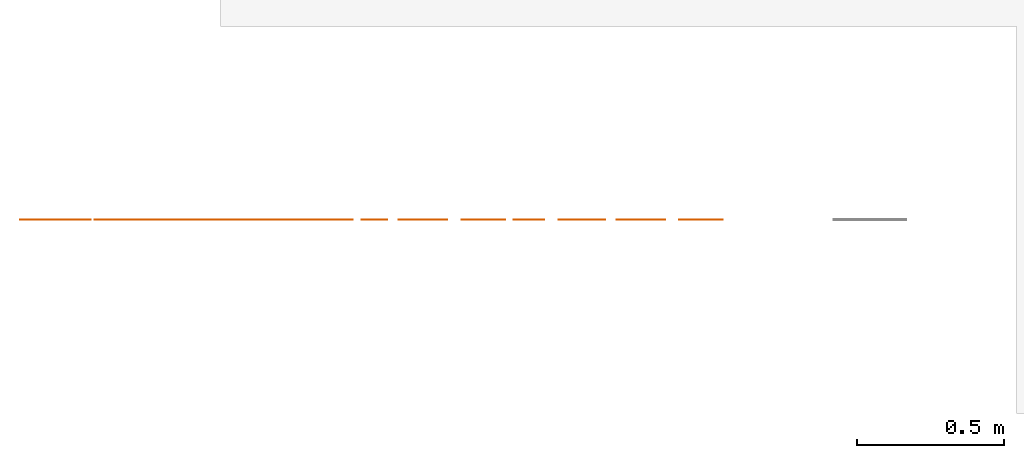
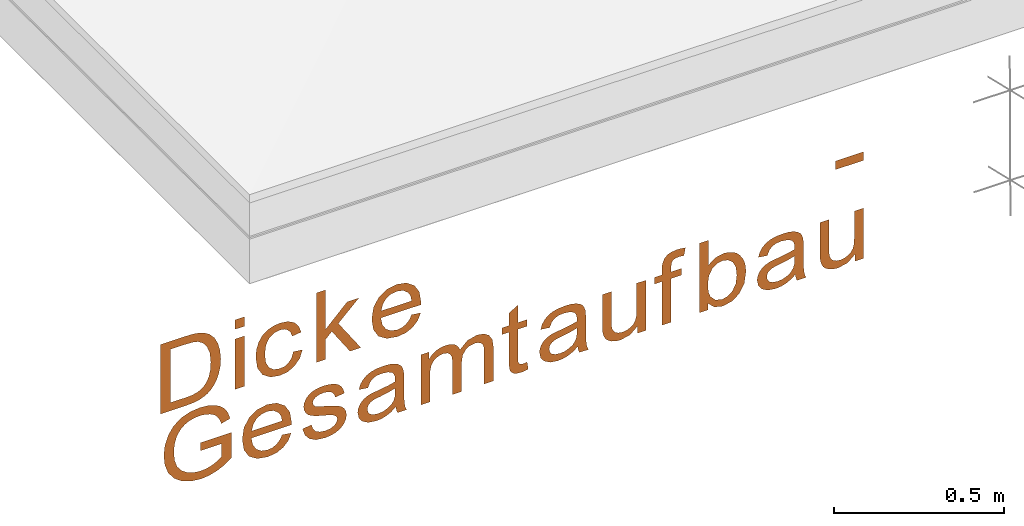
# One storey, part 3 of 3: 1 proxy, 1 element without a shape of its own.
"""IFC4 building model written with IfcOpenShell, lengths in metres."""

from ifc_helpers import new_model, entity, si_unit, converted_unit, derived_unit, frame, origin, origin_with_axes, place, context, subcontext, project, spatial, open_shell, surface_model, source, transform, mapped, element, aggregate, save


model = new_model("IFC4")

# Units and contexts
model_context = context("Model", 3, precision=1e-05, world=origin())
body_context = subcontext(model_context, "Body", "Model", "MODEL_VIEW")
ifc_project = project(units=[si_unit("LENGTHUNIT", "METRE"), si_unit("AREAUNIT", "SQUARE_METRE"), si_unit("VOLUMEUNIT", "CUBIC_METRE"), si_unit("MASSUNIT", "GRAM", prefix="KILO"), converted_unit("PLANEANGLEUNIT", "DEGREE", entity("IfcPlaneAngleMeasure", 0.0174532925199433), si_unit("PLANEANGLEUNIT", "RADIAN"), dimensions=[0, 0, 0, 0, 0, 0, 0]), derived_unit("THERMALTRANSMITTANCEUNIT", [(si_unit("POWERUNIT", "WATT"), 1), (si_unit("THERMODYNAMICTEMPERATUREUNIT", "KELVIN"), -1), (si_unit("LENGTHUNIT", "METRE"), -2)]), derived_unit("VOLUMETRICFLOWRATEUNIT", [(si_unit("LENGTHUNIT", "METRE"), 3), (converted_unit("TIMEUNIT", "hour", entity("IfcTimeMeasure", 3600.0), si_unit("TIMEUNIT", "SECOND"), dimensions=[0, 0, 1, 0, 0, 0, 0]), -1), (si_unit("LENGTHUNIT", "METRE"), -1)])], contexts=[model_context])

# Site, building, storey
site_placement = place(None, origin())
site = spatial("IfcSite", under=ifc_project, at=site_placement, Name="Liegenschaft", CompositionType="ELEMENT")
building_placement = place(site_placement, origin())
building = spatial("IfcBuilding", under=site, at=building_placement, Name="Gebäude", CompositionType="ELEMENT")
storey_placement = place(building_placement, origin())
storey = spatial("IfcBuildingStorey", under=building, at=storey_placement, Name="Geschoss 02", CompositionType="ELEMENT", Elevation=0.0)

# Assembly, proxy
assembly_placement = place(storey_placement, origin())
assembly = element("IfcElementAssembly", 1, at=assembly_placement, inside=storey, Name="SpatialDim_Group", PredefinedType="NOTDEFINED")
shared_shape = source(origin_with_axes(), body_context, "Body", "SurfaceModel", [
    surface_model("IfcShellBasedSurfaceModel", [(0.282, 2.893, 0.0), (0.282, 2.804, 0.0), (0.28325, 2.782125, 0.0), (0.286, 2.764, 0.0), (0.292125, 2.7475, 0.0), (0.299, 2.734, 0.0), (0.308875, 2.72225, 0.0), (0.321, 2.712, 0.0), (0.338, 2.702, 0.0), (0.358, 2.695, 0.0), (0.381875, 2.689625, 0.0), (0.408, 2.688, 0.0), (0.44025, 2.69075, 0.0), (0.468, 2.698, 0.0), (0.492125, 2.709875, 0.0), (0.511, 2.727, 0.0), (0.521375, 2.7435, 0.0), (0.528, 2.763, 0.0), (0.531125, 2.7825, 0.0), (0.532, 2.808, 0.0), (0.532, 2.893, 0.0), (0.312, 2.78575, 0.0), (0.311, 2.807, 0.0), (0.311, 2.86, 0.0), (0.503, 2.86, 0.0), (0.503, 2.808, 0.0), (0.501625, 2.7825, 0.0), (0.498, 2.766, 0.0), (0.486875, 2.748625, 0.0), (0.469, 2.735, 0.0), (0.4435, 2.725125, 0.0), (0.409, 2.722, 0.0), (0.381875, 2.7235, 0.0), (0.36, 2.728, 0.0), (0.341875, 2.736375, 0.0), (0.329, 2.747, 0.0), (0.321, 2.756875, 0.0), (0.316, 2.769, 0.0)], [open_shell([[[0, 1, 2, 3, 4, 5, 6, 7, 8, 9, 10, 11, 12, 13, 14, 15, 16, 17, 18, 19, 20], [21, 22, 23, 24, 25, 26, 27, 28, 29, 30, 31, 32, 33, 34, 35, 36, 37]]], orient=[[False, False]])]),
    surface_model("IfcShellBasedSurfaceModel", [(0.282, 2.639, 0.0), (0.282, 2.608, 0.0), (0.463, 2.608, 0.0), (0.463, 2.639, 0.0), (0.498, 2.639, 0.0), (0.498, 2.608, 0.0), (0.532, 2.608, 0.0), (0.532, 2.639, 0.0)], [open_shell([[[0, 1, 2, 3]], [[4, 5, 6, 7]]], orient=[[False], [False]])]),
    surface_model("IfcShellBasedSurfaceModel", [(0.348, 2.441, 0.0), (0.327625, 2.44675, 0.0), (0.314, 2.457, 0.0), (0.3055, 2.4705, 0.0), (0.303, 2.487, 0.0), (0.307375, 2.508125, 0.0), (0.32, 2.524, 0.0), (0.341625, 2.53475, 0.0), (0.373, 2.538, 0.0), (0.40425, 2.534375, 0.0), (0.425, 2.524, 0.0), (0.438, 2.506875, 0.0), (0.442, 2.486, 0.0), (0.43975, 2.471875, 0.0), (0.433, 2.46, 0.0), (0.420875, 2.45025, 0.0), (0.405, 2.445, 0.0), (0.409, 2.414, 0.0), (0.433875, 2.423, 0.0), (0.452, 2.438, 0.0), (0.46325, 2.45975, 0.0), (0.467, 2.486, 0.0), (0.464125, 2.509125, 0.0), (0.456, 2.53, 0.0), (0.44175, 2.5475, 0.0), (0.423, 2.559, 0.0), (0.399, 2.566625, 0.0), (0.372, 2.569, 0.0), (0.33175, 2.563125, 0.0), (0.302, 2.546, 0.0), (0.284, 2.519, 0.0), (0.278, 2.486, 0.0), (0.2825, 2.458375, 0.0), (0.296, 2.436, 0.0), (0.317, 2.418875, 0.0), (0.344, 2.41, 0.0)], [open_shell([[[0, 1, 2, 3, 4, 5, 6, 7, 8, 9, 10, 11, 12, 13, 14, 15, 16, 17, 18, 19, 20, 21, 22, 23, 24, 25, 26, 27, 28, 29, 30, 31, 32, 33, 34, 35]]], orient=[[False]])]),
    surface_model("IfcShellBasedSurfaceModel", [(0.282, 2.362, 0.0), (0.282, 2.331, 0.0), (0.354, 2.331, 0.0), (0.375, 2.31, 0.0), (0.282, 2.248, 0.0), (0.282, 2.211, 0.0), (0.396, 2.288, 0.0), (0.463, 2.218, 0.0), (0.463, 2.258, 0.0), (0.39, 2.331, 0.0), (0.532, 2.331, 0.0), (0.532, 2.362, 0.0)], [open_shell([[[0, 1, 2, 3, 4, 5, 6, 7, 8, 9, 10, 11]]], orient=[[False]])]),
    surface_model("IfcShellBasedSurfaceModel", [(0.34, 2.038, 0.0), (0.323375, 2.046875, 0.0), (0.312, 2.058, 0.0), (0.30525, 2.071375, 0.0), (0.303, 2.087, 0.0), (0.30725, 2.10875, 0.0), (0.319, 2.126, 0.0), (0.338625, 2.137875, 0.0), (0.365, 2.143, 0.0), (0.365, 2.006, 0.0), (0.36975, 2.006, 0.0), (0.373, 2.006, 0.0), (0.41275, 2.011875, 0.0), (0.442, 2.029, 0.0), (0.460875, 2.056, 0.0), (0.467, 2.089, 0.0), (0.4605, 2.123625, 0.0), (0.442, 2.15, 0.0), (0.411375, 2.168, 0.0), (0.371, 2.174, 0.0), (0.33125, 2.168125, 0.0), (0.302, 2.151, 0.0), (0.284, 2.12275, 0.0), (0.278, 2.087, 0.0), (0.28175, 2.057625, 0.0), (0.293, 2.035, 0.0), (0.3115, 2.017625, 0.0), (0.336, 2.007, 0.0), (0.409625, 2.04175, 0.0), (0.39, 2.038, 0.0), (0.39, 2.142, 0.0), (0.411625, 2.136625, 0.0), (0.428, 2.126, 0.0), (0.43875, 2.109, 0.0), (0.442, 2.089, 0.0), (0.4375, 2.06725, 0.0), (0.424, 2.05, 0.0)], [open_shell([[[0, 1, 2, 3, 4, 5, 6, 7, 8, 9, 10, 11, 12, 13, 14, 15, 16, 17, 18, 19, 20, 21, 22, 23, 24, 25, 26, 27], [28, 29, 30, 31, 32, 33, 34, 35, 36]]], orient=[[False, False]])]),
    surface_model("IfcShellBasedSurfaceModel", [(0.357, 0.595, 0.0), (0.357, 0.5, 0.0), (0.388, 0.5, 0.0), (0.388, 0.595, 0.0)], [open_shell([[[0, 1, 2, 3]]], orient=[[False]])]),
    surface_model("IfcShellBasedSurfaceModel", [(0.102, 2.757, 0.0), (0.102, 2.685, 0.0), (0.055, 2.685, 0.0), (0.046, 2.697875, 0.0), (0.037, 2.716, 0.0), (0.03075, 2.7365, 0.0), (0.029, 2.757, 0.0), (0.031875, 2.781125, 0.0), (0.04, 2.803, 0.0), (0.05425, 2.822625, 0.0), (0.073, 2.837, 0.0), (0.09875, 2.8455, 0.0), (0.129, 2.848, 0.0), (0.155125, 2.84575, 0.0), (0.179, 2.839, 0.0), (0.192625, 2.83175, 0.0), (0.204, 2.823, 0.0), (0.2145, 2.811125, 0.0), (0.222, 2.797, 0.0), (0.227375, 2.77825, 0.0), (0.229, 2.758, 0.0), (0.227, 2.739875, 0.0), (0.222, 2.724, 0.0), (0.214625, 2.70975, 0.0), (0.205, 2.7, 0.0), (0.1915, 2.69225, 0.0), (0.175, 2.686, 0.0), (0.183, 2.656, 0.0), (0.207, 2.664, 0.0), (0.225, 2.675, 0.0), (0.2385, 2.68975, 0.0), (0.249, 2.709, 0.0), (0.25575, 2.732375, 0.0), (0.258, 2.758, 0.0), (0.25425, 2.793125, 0.0), (0.243, 2.823, 0.0), (0.222875, 2.84875, 0.0), (0.196, 2.867, 0.0), (0.16275, 2.87825, 0.0), (0.128, 2.882, 0.0), (0.092625, 2.87825, 0.0), (0.061, 2.867, 0.0), (0.03475, 2.8475, 0.0), (0.016, 2.822, 0.0), (0.003875, 2.79, 0.0), (0.0, 2.755, 0.0), (0.00275, 2.728125, 0.0), (0.01, 2.702, 0.0), (0.021875, 2.67625, 0.0), (0.039, 2.652, 0.0), (0.131, 2.652, 0.0), (0.131, 2.757, 0.0)], [open_shell([[[0, 1, 2, 3, 4, 5, 6, 7, 8, 9, 10, 11, 12, 13, 14, 15, 16, 17, 18, 19, 20, 21, 22, 23, 24, 25, 26, 27, 28, 29, 30, 31, 32, 33, 34, 35, 36, 37, 38, 39, 40, 41, 42, 43, 44, 45, 46, 47, 48, 49, 50, 51]]], orient=[[False]])]),
    surface_model("IfcShellBasedSurfaceModel", [(0.0620000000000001, 2.479, 0.0), (0.0453750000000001, 2.487875, 0.0), (0.0340000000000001, 2.499, 0.0), (0.0272500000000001, 2.512375, 0.0), (0.0250000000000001, 2.528, 0.0), (0.02925, 2.54975, 0.0), (0.041, 2.567, 0.0), (0.060625, 2.578875, 0.0), (0.087, 2.584, 0.0), (0.0870000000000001, 2.447, 0.0), (0.0917500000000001, 2.447, 0.0), (0.0950000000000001, 2.447, 0.0), (0.13475, 2.452875, 0.0), (0.164, 2.47, 0.0), (0.182875, 2.497, 0.0), (0.189, 2.53, 0.0), (0.1825, 2.564625, 0.0), (0.164, 2.591, 0.0), (0.133375, 2.609, 0.0), (0.093, 2.615, 0.0), (0.05325, 2.609125, 0.0), (0.024, 2.592, 0.0), (0.00600000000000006, 2.56375, 0.0), (0.0, 2.528, 0.0), (0.00375000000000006, 2.498625, 0.0), (0.0150000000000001, 2.476, 0.0), (0.0335000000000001, 2.458625, 0.0), (0.0580000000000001, 2.448, 0.0), (0.131625, 2.48275, 0.0), (0.112, 2.479, 0.0), (0.112, 2.583, 0.0), (0.133625, 2.577625, 0.0), (0.15, 2.567, 0.0), (0.16075, 2.55, 0.0), (0.164, 2.53, 0.0), (0.1595, 2.50825, 0.0), (0.146, 2.491, 0.0)], [open_shell([[[0, 1, 2, 3, 4, 5, 6, 7, 8, 9, 10, 11, 12, 13, 14, 15, 16, 17, 18, 19, 20, 21, 22, 23, 24, 25, 26, 27], [28, 29, 30, 31, 32, 33, 34, 35, 36]]], orient=[[False, False]])]),
    surface_model("IfcShellBasedSurfaceModel", [(0.0590000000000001, 2.41, 0.0), (0.0332500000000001, 2.401, 0.0), (0.0150000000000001, 2.386, 0.0), (0.00375000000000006, 2.363625, 0.0), (0.0, 2.333, 0.0), (0.00200000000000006, 2.312875, 0.0), (0.00700000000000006, 2.295, 0.0), (0.0167500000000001, 2.27975, 0.0), (0.0280000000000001, 2.269, 0.0), (0.0425000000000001, 2.26225, 0.0), (0.0570000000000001, 2.26, 0.0), (0.0718750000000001, 2.262125, 0.0), (0.0830000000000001, 2.268, 0.0), (0.0928750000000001, 2.276875, 0.0), (0.0990000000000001, 2.288, 0.0), (0.10575, 2.306, 0.0), (0.114, 2.333, 0.0), (0.119125, 2.351, 0.0), (0.122, 2.36, 0.0), (0.125625, 2.367, 0.0), (0.13, 2.371, 0.0), (0.1355, 2.374125, 0.0), (0.141, 2.375, 0.0), (0.14975, 2.37275, 0.0), (0.157, 2.366, 0.0), (0.162375, 2.354125, 0.0), (0.164, 2.337, 0.0), (0.161875, 2.32125, 0.0), (0.156, 2.31, 0.0), (0.146125, 2.30175, 0.0), (0.134, 2.298, 0.0), (0.138, 2.267, 0.0), (0.15425, 2.271375, 0.0), (0.166, 2.278, 0.0), (0.176, 2.287625, 0.0), (0.183, 2.301, 0.0), (0.1875, 2.31925, 0.0), (0.189, 2.339, 0.0), (0.18775, 2.35325, 0.0), (0.185, 2.366, 0.0), (0.18125, 2.377, 0.0), (0.176, 2.385, 0.0), (0.168625, 2.394, 0.0), (0.159, 2.4, 0.0), (0.148375, 2.4045, 0.0), (0.137, 2.406, 0.0), (0.12425, 2.404, 0.0), (0.113, 2.399, 0.0), (0.103, 2.390125, 0.0), (0.0960000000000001, 2.379, 0.0), (0.0885000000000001, 2.36, 0.0), (0.0810000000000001, 2.332, 0.0), (0.0743750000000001, 2.312, 0.0), (0.0700000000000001, 2.301, 0.0), (0.0627500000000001, 2.293375, 0.0), (0.0540000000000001, 2.291, 0.0), (0.0428750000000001, 2.29375, 0.0), (0.0340000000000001, 2.301, 0.0), (0.0272500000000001, 2.313875, 0.0), (0.0250000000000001, 2.332, 0.0), (0.0277500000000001, 2.35075, 0.0), (0.0350000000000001, 2.365, 0.0), (0.0471250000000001, 2.37425, 0.0), (0.0630000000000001, 2.379, 0.0)], [open_shell([[[0, 1, 2, 3, 4, 5, 6, 7, 8, 9, 10, 11, 12, 13, 14, 15, 16, 17, 18, 19, 20, 21, 22, 23, 24, 25, 26, 27, 28, 29, 30, 31, 32, 33, 34, 35, 36, 37, 38, 39, 40, 41, 42, 43, 44, 45, 46, 47, 48, 49, 50, 51, 52, 53, 54, 55, 56, 57, 58, 59, 60, 61, 62, 63]]], orient=[[False]])]),
    surface_model("IfcShellBasedSurfaceModel", [(0.0143750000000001, 2.08975, 0.0), (0.00400000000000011, 2.086, 0.0), (0.00400000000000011, 2.055, 0.0), (0.0146250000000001, 2.059625, 0.0), (0.0260000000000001, 2.062, 0.0), (0.0455000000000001, 2.06375, 0.0), (0.0800000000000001, 2.064, 0.0), (0.121, 2.064, 0.0), (0.138375, 2.064625, 0.0), (0.149, 2.066, 0.0), (0.161, 2.06975, 0.0), (0.17, 2.075, 0.0), (0.17775, 2.084125, 0.0), (0.184, 2.097, 0.0), (0.188, 2.114125, 0.0), (0.189, 2.135, 0.0), (0.1875, 2.1575, 0.0), (0.183, 2.177, 0.0), (0.174625, 2.19275, 0.0), (0.164, 2.204, 0.0), (0.15, 2.212875, 0.0), (0.133, 2.218, 0.0), (0.129, 2.187, 0.0), (0.14625, 2.180125, 0.0), (0.156, 2.171, 0.0), (0.16225, 2.157625, 0.0), (0.164, 2.139, 0.0), (0.16125, 2.118, 0.0), (0.154, 2.103, 0.0), (0.14275, 2.09625, 0.0), (0.127, 2.094, 0.0), (0.12375, 2.094, 0.0), (0.119, 2.094, 0.0), (0.113125, 2.117125, 0.0), (0.108, 2.15, 0.0), (0.105625, 2.16575, 0.0), (0.104, 2.177, 0.0), (0.0993750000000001, 2.189625, 0.0), (0.0940000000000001, 2.2, 0.0), (0.0857500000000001, 2.209125, 0.0), (0.0760000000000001, 2.216, 0.0), (0.0640000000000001, 2.2205, 0.0), (0.0520000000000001, 2.222, 0.0), (0.0308750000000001, 2.21775, 0.0), (0.0150000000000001, 2.206, 0.0), (0.00375000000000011, 2.1855, 0.0), (0.0, 2.159, 0.0), (0.00150000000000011, 2.14125, 0.0), (0.00600000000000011, 2.125, 0.0), (0.0142500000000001, 2.1085, 0.0), (0.0270000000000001, 2.092, 0.0), (0.0890000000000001, 2.115, 0.0), (0.0950000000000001, 2.094, 0.0), (0.0840000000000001, 2.094, 0.0), (0.0655000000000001, 2.095375, 0.0), (0.0530000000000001, 2.099, 0.0), (0.0402500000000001, 2.108, 0.0), (0.0320000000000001, 2.12, 0.0), (0.0257500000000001, 2.13525, 0.0), (0.0240000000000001, 2.152, 0.0), (0.0261250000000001, 2.16825, 0.0), (0.0320000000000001, 2.18, 0.0), (0.0417500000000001, 2.18675, 0.0), (0.0530000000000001, 2.189, 0.0), (0.0607500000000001, 2.18775, 0.0), (0.0670000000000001, 2.185, 0.0), (0.0731250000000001, 2.178875, 0.0), (0.0770000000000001, 2.172, 0.0), (0.0807500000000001, 2.16075, 0.0), (0.0830000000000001, 2.145, 0.0)], [open_shell([[[0, 1, 2, 3, 4, 5, 6, 7, 8, 9, 10, 11, 12, 13, 14, 15, 16, 17, 18, 19, 20, 21, 22, 23, 24, 25, 26, 27, 28, 29, 30, 31, 32, 33, 34, 35, 36, 37, 38, 39, 40, 41, 42, 43, 44, 45, 46, 47, 48, 49, 50], [51, 52, 53, 54, 55, 56, 57, 58, 59, 60, 61, 62, 63, 64, 65, 66, 67, 68, 69]]], orient=[[False, False]])]),
    surface_model("IfcShellBasedSurfaceModel", [(0.00400000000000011, 2.007, 0.0), (0.00400000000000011, 1.976, 0.0), (0.0980000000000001, 1.976, 0.0), (0.1195, 1.974625, 0.0), (0.135, 1.971, 0.0), (0.146875, 1.964125, 0.0), (0.155, 1.955, 0.0), (0.160375, 1.943, 0.0), (0.162, 1.931, 0.0), (0.15925, 1.916, 0.0), (0.152, 1.907, 0.0), (0.139125, 1.90075, 0.0), (0.121, 1.899, 0.0), (0.00400000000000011, 1.899, 0.0), (0.00400000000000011, 1.868, 0.0), (0.109, 1.868, 0.0), (0.133125, 1.8645, 0.0), (0.149, 1.855, 0.0), (0.158875, 1.840875, 0.0), (0.162, 1.823, 0.0), (0.160625, 1.81325, 0.0), (0.157, 1.805, 0.0), (0.150875, 1.798, 0.0), (0.144, 1.794, 0.0), (0.13325, 1.79175, 0.0), (0.118, 1.791, 0.0), (0.00400000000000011, 1.791, 0.0), (0.00400000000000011, 1.76, 0.0), (0.128, 1.76, 0.0), (0.155125, 1.76375, 0.0), (0.174, 1.775, 0.0), (0.18525, 1.7925, 0.0), (0.189, 1.816, 0.0), (0.180875, 1.84825, 0.0), (0.157, 1.873, 0.0), (0.1705, 1.8805, 0.0), (0.181, 1.891, 0.0), (0.18725, 1.906, 0.0), (0.189, 1.924, 0.0), (0.186875, 1.941125, 0.0), (0.181, 1.956, 0.0), (0.171125, 1.969, 0.0), (0.159, 1.979, 0.0), (0.185, 1.979, 0.0), (0.185, 2.007, 0.0)], [open_shell([[[0, 1, 2, 3, 4, 5, 6, 7, 8, 9, 10, 11, 12, 13, 14, 15, 16, 17, 18, 19, 20, 21, 22, 23, 24, 25, 26, 27, 28, 29, 30, 31, 32, 33, 34, 35, 36, 37, 38, 39, 40, 41, 42, 43, 44]]], orient=[[False]])]),
    surface_model("IfcShellBasedSurfaceModel", [(0.0320000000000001, 1.645, 0.0), (0.0311250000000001, 1.65275, 0.0), (0.0310000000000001, 1.659, 0.0), (0.0316250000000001, 1.66475, 0.0), (0.0330000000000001, 1.669, 0.0), (0.0360000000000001, 1.672625, 0.0), (0.0390000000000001, 1.674, 0.0), (0.0456250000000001, 1.67575, 0.0), (0.0560000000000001, 1.676, 0.0), (0.161, 1.676, 0.0), (0.161, 1.645, 0.0), (0.185, 1.645, 0.0), (0.185, 1.676, 0.0), (0.248, 1.676, 0.0), (0.23, 1.707, 0.0), (0.185, 1.707, 0.0), (0.185, 1.73, 0.0), (0.161, 1.73, 0.0), (0.161, 1.707, 0.0), (0.0570000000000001, 1.707, 0.0), (0.0345000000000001, 1.70575, 0.0), (0.0210000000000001, 1.703, 0.0), (0.0132500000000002, 1.697625, 0.0), (0.00700000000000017, 1.69, 0.0), (0.00300000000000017, 1.678875, 0.0), (0.00200000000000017, 1.664, 0.0), (0.00275000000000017, 1.652875, 0.0), (0.00500000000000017, 1.641, 0.0)], [open_shell([[[0, 1, 2, 3, 4, 5, 6, 7, 8, 9, 10, 11, 12, 13, 14, 15, 16, 17, 18, 19, 20, 21, 22, 23, 24, 25, 26, 27]]], orient=[[False]])]),
    surface_model("IfcShellBasedSurfaceModel", [(0.0143750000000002, 1.47075, 0.0), (0.00400000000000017, 1.467, 0.0), (0.00400000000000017, 1.436, 0.0), (0.0146250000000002, 1.440625, 0.0), (0.0260000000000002, 1.443, 0.0), (0.0455000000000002, 1.44475, 0.0), (0.0800000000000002, 1.445, 0.0), (0.121, 1.445, 0.0), (0.138375, 1.445625, 0.0), (0.149, 1.447, 0.0), (0.161, 1.45075, 0.0), (0.17, 1.456, 0.0), (0.17775, 1.465125, 0.0), (0.184, 1.478, 0.0), (0.188, 1.495125, 0.0), (0.189, 1.516, 0.0), (0.1875, 1.5385, 0.0), (0.183, 1.558, 0.0), (0.174625, 1.57375, 0.0), (0.164, 1.585, 0.0), (0.15, 1.593875, 0.0), (0.133, 1.599, 0.0), (0.129, 1.568, 0.0), (0.14625, 1.561125, 0.0), (0.156, 1.552, 0.0), (0.16225, 1.538625, 0.0), (0.164, 1.52, 0.0), (0.16125, 1.499, 0.0), (0.154, 1.484, 0.0), (0.14275, 1.47725, 0.0), (0.127, 1.475, 0.0), (0.12375, 1.475, 0.0), (0.119, 1.475, 0.0), (0.113125, 1.498125, 0.0), (0.108, 1.531, 0.0), (0.105625, 1.54675, 0.0), (0.104, 1.558, 0.0), (0.0993750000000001, 1.570625, 0.0), (0.0940000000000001, 1.581, 0.0), (0.0857500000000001, 1.590125, 0.0), (0.0760000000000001, 1.597, 0.0), (0.0640000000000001, 1.6015, 0.0), (0.0520000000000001, 1.603, 0.0), (0.0308750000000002, 1.59875, 0.0), (0.0150000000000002, 1.587, 0.0), (0.00375000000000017, 1.5665, 0.0), (0.0, 1.54, 0.0), (0.00150000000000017, 1.52225, 0.0), (0.00600000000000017, 1.506, 0.0), (0.0142500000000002, 1.4895, 0.0), (0.0270000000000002, 1.473, 0.0), (0.0890000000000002, 1.496, 0.0), (0.0950000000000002, 1.475, 0.0), (0.0840000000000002, 1.475, 0.0), (0.0655000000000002, 1.476375, 0.0), (0.0530000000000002, 1.48, 0.0), (0.0402500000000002, 1.489, 0.0), (0.0320000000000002, 1.501, 0.0), (0.0257500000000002, 1.51625, 0.0), (0.0240000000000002, 1.533, 0.0), (0.0261250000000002, 1.54925, 0.0), (0.0320000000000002, 1.561, 0.0), (0.0417500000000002, 1.56775, 0.0), (0.0530000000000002, 1.57, 0.0), (0.0607500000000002, 1.56875, 0.0), (0.0670000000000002, 1.566, 0.0), (0.0731250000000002, 1.559875, 0.0), (0.0770000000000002, 1.553, 0.0), (0.0807500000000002, 1.54175, 0.0), (0.0830000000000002, 1.526, 0.0)], [open_shell([[[0, 1, 2, 3, 4, 5, 6, 7, 8, 9, 10, 11, 12, 13, 14, 15, 16, 17, 18, 19, 20, 21, 22, 23, 24, 25, 26, 27, 28, 29, 30, 31, 32, 33, 34, 35, 36, 37, 38, 39, 40, 41, 42, 43, 44, 45, 46, 47, 48, 49, 50], [51, 52, 53, 54, 55, 56, 57, 58, 59, 60, 61, 62, 63, 64, 65, 66, 67, 68, 69]]], orient=[[False, False]])]),
    surface_model("IfcShellBasedSurfaceModel", [(0.00400000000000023, 1.269, 0.0), (0.00400000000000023, 1.241, 0.0), (0.185, 1.241, 0.0), (0.185, 1.272, 0.0), (0.0880000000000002, 1.272, 0.0), (0.0670000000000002, 1.273375, 0.0), (0.0520000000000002, 1.277, 0.0), (0.0410000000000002, 1.284, 0.0), (0.0330000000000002, 1.294, 0.0), (0.0276250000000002, 1.306625, 0.0), (0.0260000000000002, 1.32, 0.0), (0.0280000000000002, 1.3335, 0.0), (0.0330000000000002, 1.344, 0.0), (0.0413750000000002, 1.3515, 0.0), (0.0520000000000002, 1.356, 0.0), (0.0642500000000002, 1.35775, 0.0), (0.0840000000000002, 1.358, 0.0), (0.185, 1.358, 0.0), (0.185, 1.389, 0.0), (0.0730000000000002, 1.389, 0.0), (0.0555000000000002, 1.388375, 0.0), (0.0440000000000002, 1.387, 0.0), (0.0318750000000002, 1.38325, 0.0), (0.0220000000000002, 1.378, 0.0), (0.0128750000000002, 1.369, 0.0), (0.00600000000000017, 1.357, 0.0), (0.00150000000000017, 1.342, 0.0), (0.0, 1.327, 0.0), (0.00750000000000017, 1.293875, 0.0), (0.0300000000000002, 1.269, 0.0)], [open_shell([[[0, 1, 2, 3, 4, 5, 6, 7, 8, 9, 10, 11, 12, 13, 14, 15, 16, 17, 18, 19, 20, 21, 22, 23, 24, 25, 26, 27, 28, 29]]], orient=[[False]])]),
    surface_model("IfcShellBasedSurfaceModel", [(0.00400000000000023, 1.186, 0.0), (0.00400000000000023, 1.155, 0.0), (0.161, 1.155, 0.0), (0.161, 1.12, 0.0), (0.185, 1.12, 0.0), (0.185, 1.155, 0.0), (0.202, 1.155, 0.0), (0.215625, 1.1535, 0.0), (0.224, 1.149, 0.0), (0.2285, 1.140875, 0.0), (0.23, 1.129, 0.0), (0.229375, 1.12, 0.0), (0.228, 1.111, 0.0), (0.255, 1.106, 0.0), (0.25725, 1.121625, 0.0), (0.258, 1.135, 0.0), (0.256, 1.15325, 0.0), (0.251, 1.167, 0.0), (0.24175, 1.17675, 0.0), (0.231, 1.182, 0.0), (0.21975, 1.185125, 0.0), (0.204, 1.186, 0.0), (0.185, 1.186, 0.0), (0.185, 1.212, 0.0), (0.161, 1.212, 0.0), (0.161, 1.186, 0.0)], [open_shell([[[0, 1, 2, 3, 4, 5, 6, 7, 8, 9, 10, 11, 12, 13, 14, 15, 16, 17, 18, 19, 20, 21, 22, 23, 24, 25]]], orient=[[False]])]),
    surface_model("IfcShellBasedSurfaceModel", [(0.00400000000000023, 1.029, 0.0), (0.0270000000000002, 1.029, 0.0), (0.00675000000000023, 1.007375, 0.0), (0.0, 0.979, 0.0), (0.00650000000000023, 0.948375, 0.0), (0.0250000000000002, 0.923, 0.0), (0.0565000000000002, 0.9055, 0.0), (0.0970000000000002, 0.9, 0.0), (0.116625, 0.901375, 0.0), (0.134, 0.905, 0.0), (0.15, 0.91225, 0.0), (0.163, 0.921, 0.0), (0.174375, 0.9315, 0.0), (0.182, 0.945, 0.0), (0.187375, 0.960625, 0.0), (0.189, 0.977, 0.0), (0.183, 1.004625, 0.0), (0.165, 1.027, 0.0), (0.254, 1.027, 0.0), (0.254, 1.058, 0.0), (0.00400000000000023, 1.058, 0.0), (0.0680000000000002, 1.02775, 0.0), (0.0960000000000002, 1.03, 0.0), (0.12525, 1.02625, 0.0), (0.147, 1.015, 0.0), (0.16, 0.998625, 0.0), (0.164, 0.98, 0.0), (0.159625, 0.961, 0.0), (0.147, 0.945, 0.0), (0.125125, 0.93425, 0.0), (0.0950000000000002, 0.931, 0.0), (0.0641250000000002, 0.93475, 0.0), (0.0430000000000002, 0.946, 0.0), (0.0295000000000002, 0.962375, 0.0), (0.0250000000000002, 0.981, 0.0), (0.0310000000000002, 1.003625, 0.0), (0.0490000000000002, 1.021, 0.0)], [open_shell([[[0, 1, 2, 3, 4, 5, 6, 7, 8, 9, 10, 11, 12, 13, 14, 15, 16, 17, 18, 19, 20], [21, 22, 23, 24, 25, 26, 27, 28, 29, 30, 31, 32, 33, 34, 35, 36]]], orient=[[False, False]])]),
    surface_model("IfcShellBasedSurfaceModel", [(0.0143750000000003, 0.72975, 0.0), (0.00400000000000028, 0.726, 0.0), (0.00400000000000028, 0.695, 0.0), (0.0146250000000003, 0.699625, 0.0), (0.0260000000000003, 0.702, 0.0), (0.0455000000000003, 0.70375, 0.0), (0.0800000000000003, 0.704, 0.0), (0.121, 0.704, 0.0), (0.138375, 0.704625, 0.0), (0.149, 0.706, 0.0), (0.161, 0.70975, 0.0), (0.17, 0.715, 0.0), (0.17775, 0.724125, 0.0), (0.184, 0.737, 0.0), (0.188, 0.754125, 0.0), (0.189, 0.775, 0.0), (0.1875, 0.7975, 0.0), (0.183, 0.817, 0.0), (0.174625, 0.83275, 0.0), (0.164, 0.844, 0.0), (0.15, 0.852875, 0.0), (0.133, 0.858, 0.0), (0.129, 0.827, 0.0), (0.14625, 0.820125, 0.0), (0.156, 0.811, 0.0), (0.16225, 0.797625, 0.0), (0.164, 0.779, 0.0), (0.16125, 0.758, 0.0), (0.154, 0.743, 0.0), (0.14275, 0.73625, 0.0), (0.127, 0.734, 0.0), (0.12375, 0.734, 0.0), (0.119, 0.734, 0.0), (0.113125, 0.757125, 0.0), (0.108, 0.79, 0.0), (0.105625, 0.80575, 0.0), (0.104, 0.817, 0.0), (0.0993750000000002, 0.829625, 0.0), (0.0940000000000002, 0.84, 0.0), (0.0857500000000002, 0.849125, 0.0), (0.0760000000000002, 0.856, 0.0), (0.0640000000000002, 0.8605, 0.0), (0.0520000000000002, 0.862, 0.0), (0.0308750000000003, 0.85775, 0.0), (0.0150000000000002, 0.846, 0.0), (0.00375000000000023, 0.8255, 0.0), (0.0, 0.799, 0.0), (0.00150000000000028, 0.78125, 0.0), (0.00600000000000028, 0.765, 0.0), (0.0142500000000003, 0.7485, 0.0), (0.0270000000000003, 0.732, 0.0), (0.0890000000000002, 0.755, 0.0), (0.0950000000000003, 0.734, 0.0), (0.0840000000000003, 0.734, 0.0), (0.0655000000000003, 0.735375, 0.0), (0.0530000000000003, 0.739, 0.0), (0.0402500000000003, 0.748, 0.0), (0.0320000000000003, 0.76, 0.0), (0.0257500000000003, 0.77525, 0.0), (0.0240000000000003, 0.792, 0.0), (0.0261250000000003, 0.80825, 0.0), (0.0320000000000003, 0.82, 0.0), (0.0417500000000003, 0.82675, 0.0), (0.0530000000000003, 0.829, 0.0), (0.0607500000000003, 0.82775, 0.0), (0.0670000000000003, 0.825, 0.0), (0.0731250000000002, 0.818875, 0.0), (0.0770000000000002, 0.812, 0.0), (0.0807500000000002, 0.80075, 0.0), (0.0830000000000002, 0.785, 0.0)], [open_shell([[[0, 1, 2, 3, 4, 5, 6, 7, 8, 9, 10, 11, 12, 13, 14, 15, 16, 17, 18, 19, 20, 21, 22, 23, 24, 25, 26, 27, 28, 29, 30, 31, 32, 33, 34, 35, 36, 37, 38, 39, 40, 41, 42, 43, 44, 45, 46, 47, 48, 49, 50], [51, 52, 53, 54, 55, 56, 57, 58, 59, 60, 61, 62, 63, 64, 65, 66, 67, 68, 69]]], orient=[[False, False]])]),
    surface_model("IfcShellBasedSurfaceModel", [(0.00400000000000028, 0.528, 0.0), (0.00400000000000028, 0.5, 0.0), (0.185, 0.5, 0.0), (0.185, 0.531, 0.0), (0.0880000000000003, 0.531, 0.0), (0.0670000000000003, 0.532375, 0.0), (0.0520000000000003, 0.536, 0.0), (0.0410000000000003, 0.543, 0.0), (0.0330000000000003, 0.553, 0.0), (0.0276250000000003, 0.565625, 0.0), (0.0260000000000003, 0.579, 0.0), (0.0280000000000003, 0.5925, 0.0), (0.0330000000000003, 0.603, 0.0), (0.0413750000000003, 0.6105, 0.0), (0.0520000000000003, 0.615, 0.0), (0.0642500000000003, 0.61675, 0.0), (0.0840000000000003, 0.617, 0.0), (0.185, 0.617, 0.0), (0.185, 0.648, 0.0), (0.0730000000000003, 0.648, 0.0), (0.0555000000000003, 0.647375, 0.0), (0.0440000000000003, 0.646, 0.0), (0.0318750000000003, 0.64225, 0.0), (0.0220000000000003, 0.637, 0.0), (0.0128750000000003, 0.628, 0.0), (0.00600000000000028, 0.616, 0.0), (0.00150000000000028, 0.601, 0.0), (0.0, 0.586, 0.0), (0.00750000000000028, 0.552875, 0.0), (0.0300000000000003, 0.528, 0.0)], [open_shell([[[0, 1, 2, 3, 4, 5, 6, 7, 8, 9, 10, 11, 12, 13, 14, 15, 16, 17, 18, 19, 20, 21, 22, 23, 24, 25, 26, 27, 28, 29]]], orient=[[False]])]),
])
proxy_placement = place(assembly_placement, frame((130.372507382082, -1.60959482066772, -0.110850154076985), z_axis=(-1.22464679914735e-16, -1.0, 1.49975978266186e-32), x_axis=(1.22464679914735e-16, 0.0, 1.0)))
proxy = element("IfcBuildingElementProxy", 2, at=proxy_placement, Name="macro", context=body_context, shape_type="MappedRepresentation", body=[
    mapped(shared_shape, transform((0.0, 0.0, 0.0), x_axis=(1.0, 0.0, 0.0), y_axis=(0.0, 1.0, 0.0), z_axis=(0.0, 0.0, 1.0), scale=1.0)),
])
aggregate(assembly, [proxy])

save(model, "model.ifc")
